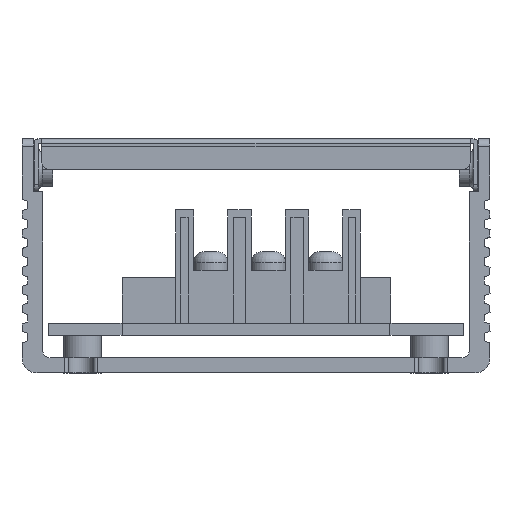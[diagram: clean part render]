
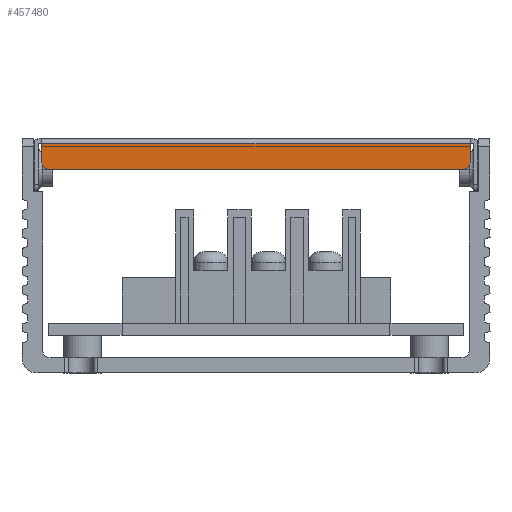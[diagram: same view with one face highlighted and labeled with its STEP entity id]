
A CAD part, front view. The second image highlights one B-rep face of the part: STEP entity #457480.
In plain terms, the highlighted planar face has unit normal (0, -1, 0).
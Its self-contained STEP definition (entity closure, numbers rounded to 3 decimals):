
#456790=CARTESIAN_POINT('',(24.423,63.41,206.));
#456800=VERTEX_POINT('',#456790);
#456830=CARTESIAN_POINT('',(25.423,63.41,206.));
#456840=DIRECTION('',(0.,1.,0.));
#456850=DIRECTION('',(-1.,0.,0.));
#456860=AXIS2_PLACEMENT_3D('',#456830,#456840,#456850);
#456870=CIRCLE('',#456860,1.);
#456880=CARTESIAN_POINT('',(25.423,63.41,205.));
#456890=VERTEX_POINT('',#456880);
#456900=EDGE_CURVE('',#456890,#456800,#456870,.T.);
#457010=CARTESIAN_POINT('',(80.823,63.41,209.));
#457020=DIRECTION('',(0.,-1.,0.));
#457030=DIRECTION('',(0.,0.,1.));
#457040=AXIS2_PLACEMENT_3D('',#457010,#457020,#457030);
#457050=PLANE('',#457040);
#457060=CARTESIAN_POINT('',(81.223,63.41,
158.99));
#457070=DIRECTION('',(0.,0.,-1.));
#457080=VECTOR('',#457070,1.);
#457090=LINE('',#457060,#457080);
#457100=CARTESIAN_POINT('',(81.223,63.41,208.4));
#457110=VERTEX_POINT('',#457100);
#457120=CARTESIAN_POINT('',(81.223,63.41,206.));
#457130=VERTEX_POINT('',#457120);
#457140=EDGE_CURVE('',#457110,#457130,#457090,.T.);
#457150=ORIENTED_EDGE('',*,*,#457140,.F.);
#457160=CARTESIAN_POINT('',(80.223,63.41,206.));
#457170=DIRECTION('',(0.,-1.,0.));
#457180=DIRECTION('',(1.,0.,0.));
#457190=AXIS2_PLACEMENT_3D('',#457160,#457170,#457180);
#457200=CIRCLE('',#457190,1.);
#457210=CARTESIAN_POINT('',(80.223,63.41,205.));
#457220=VERTEX_POINT('',#457210);
#457230=EDGE_CURVE('',#457220,#457130,#457200,.T.);
#457240=ORIENTED_EDGE('',*,*,#457230,.T.);
#457250=CARTESIAN_POINT('',(-8.25,63.41,205.));
#457260=DIRECTION('',(-1.,0.,0.));
#457270=VECTOR('',#457260,1.);
#457280=LINE('',#457250,#457270);
#457290=EDGE_CURVE('',#457220,#456890,#457280,.T.);
#457300=ORIENTED_EDGE('',*,*,#457290,.F.);
#457310=ORIENTED_EDGE('',*,*,#456900,.F.);
#457320=CARTESIAN_POINT('',(24.423,63.41,
158.99));
#457330=DIRECTION('',(0.,0.,-1.));
#457340=VECTOR('',#457330,1.);
#457350=LINE('',#457320,#457340);
#457360=CARTESIAN_POINT('',(24.423,63.41,208.4));
#457370=VERTEX_POINT('',#457360);
#457380=EDGE_CURVE('',#457370,#456800,#457350,.T.);
#457390=ORIENTED_EDGE('',*,*,#457380,.T.);
#457400=CARTESIAN_POINT('',(-8.25,63.41,208.4));
#457410=DIRECTION('',(-1.,0.,0.));
#457420=VECTOR('',#457410,1.);
#457430=LINE('',#457400,#457420);
#457440=EDGE_CURVE('',#457110,#457370,#457430,.T.);
#457450=ORIENTED_EDGE('',*,*,#457440,.T.);
#457460=EDGE_LOOP('',(#457450,#457390,#457310,#457300,#457240,#457150));
#457470=FACE_OUTER_BOUND('',#457460,.T.);
#457480=ADVANCED_FACE('',(#457470),#457050,.T.);
